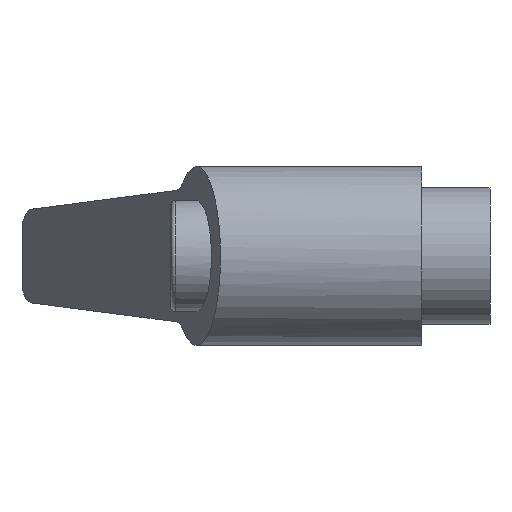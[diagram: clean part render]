
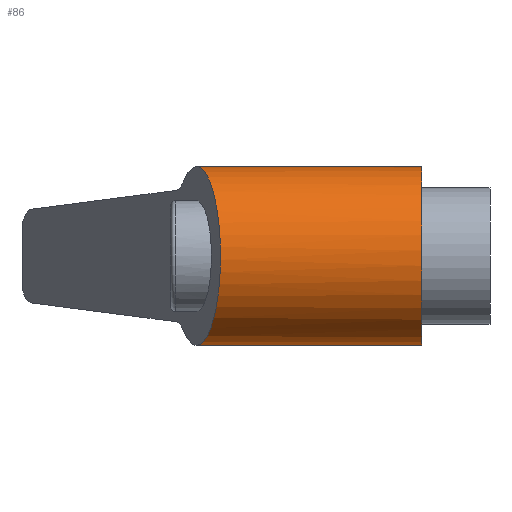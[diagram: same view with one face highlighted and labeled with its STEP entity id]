
A CAD part, left-side view. The second image highlights one B-rep face of the part: STEP entity #86.
In plain terms, the highlighted cylindrical face has radius 10.5 mm (diameter 21 mm), a full revolution.
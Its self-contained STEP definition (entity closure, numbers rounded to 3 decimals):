
#86 = ADVANCED_FACE( '', ( #127, #128 ), #129, .T. );
#127 = FACE_OUTER_BOUND( '', #185, .T. );
#128 = FACE_OUTER_BOUND( '', #186, .T. );
#129 = CYLINDRICAL_SURFACE( '', #187, 10.5 );
#185 = EDGE_LOOP( '', ( #293, #294, #295, #296 ) );
#186 = EDGE_LOOP( '', ( #297 ) );
#187 = AXIS2_PLACEMENT_3D( '', #298, #299, #300 );
#293 = ORIENTED_EDGE( '', *, *, #424, .T. );
#294 = ORIENTED_EDGE( '', *, *, #425, .T. );
#295 = ORIENTED_EDGE( '', *, *, #422, .F. );
#296 = ORIENTED_EDGE( '', *, *, #399, .F. );
#297 = ORIENTED_EDGE( '', *, *, #426, .T. );
#298 = CARTESIAN_POINT( '', ( 0., 47., 0. ) );
#299 = DIRECTION( '', ( 0., 1., 0. ) );
#300 = DIRECTION( '', ( 0., 0., -1. ) );
#399 = EDGE_CURVE( '', #458, #460, #461, .T. );
#422 = EDGE_CURVE( '', #460, #502, #503, .T. );
#424 = EDGE_CURVE( '', #458, #505, #506, .T. );
#425 = EDGE_CURVE( '', #505, #502, #507, .T. );
#426 = EDGE_CURVE( '', #508, #508, #509, .T. );
#458 = VERTEX_POINT( '', #549 );
#460 = VERTEX_POINT( '', #551 );
#461 = ELLIPSE( '', #552, 10.87, 10.5 );
#502 = VERTEX_POINT( '', #716 );
#503 = LINE( '', #717, #718 );
#505 = VERTEX_POINT( '', #729 );
#506 = LINE( '', #730, #731 );
#507 = CIRCLE( '', #732, 10.5 );
#508 = VERTEX_POINT( '', #733 );
#509 = CIRCLE( '', #734, 10.5 );
#549 = CARTESIAN_POINT( '', ( 5.837, 28.047, -8.728 ) );
#551 = CARTESIAN_POINT( '', ( 5.837, 28.047, 8.728 ) );
#552 = AXIS2_PLACEMENT_3D( '', #817, #818, #819 );
#716 = CARTESIAN_POINT( '', ( 5.837, 10.7, 8.728 ) );
#717 = CARTESIAN_POINT( '', ( 5.837, 47., 8.728 ) );
#718 = VECTOR( '', #845, 1000. );
#729 = CARTESIAN_POINT( '', ( 5.837, 10.7, -8.728 ) );
#730 = CARTESIAN_POINT( '', ( 5.837, 47., -8.728 ) );
#731 = VECTOR( '', #846, 1000. );
#732 = AXIS2_PLACEMENT_3D( '', #847, #848, #849 );
#733 = CARTESIAN_POINT( '', ( 10.5, 0., 0. ) );
#734 = AXIS2_PLACEMENT_3D( '', #850, #851, #852 );
#817 = CARTESIAN_POINT( '', ( 0., 26.483, 0. ) );
#818 = DIRECTION( '', ( -0.259, 0.966, 0. ) );
#819 = DIRECTION( '', ( -0.966, -0.259, 0. ) );
#845 = DIRECTION( '', ( 0., -1., 0. ) );
#846 = DIRECTION( '', ( 0., -1., 0. ) );
#847 = CARTESIAN_POINT( '', ( 0., 10.7, 0. ) );
#848 = DIRECTION( '', ( 0., -1., 0. ) );
#849 = DIRECTION( '', ( 0., 0., -1. ) );
#850 = CARTESIAN_POINT( '', ( 0., 0., 0. ) );
#851 = DIRECTION( '', ( 0., 1., 0. ) );
#852 = DIRECTION( '', ( 1., 0., 0. ) );
